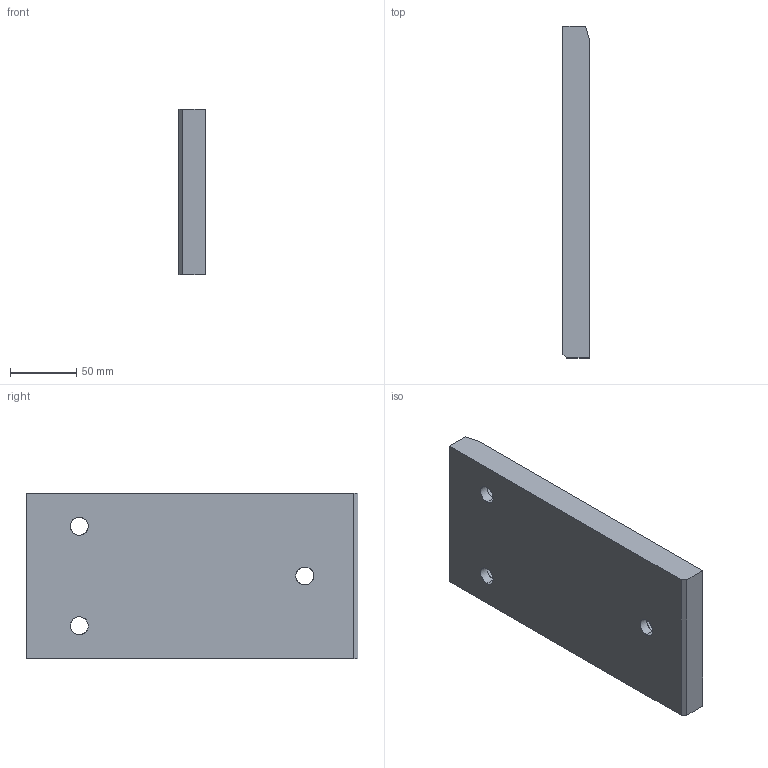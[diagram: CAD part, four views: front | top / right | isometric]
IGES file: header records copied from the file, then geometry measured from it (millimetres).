
Start section: START RECORD GO HERE.
Global section: file name: A915-125X250.igs; native system: DASSAULT SYSTEMES CATIA V5 R20 - www.3ds.com; preprocessor: CATIA Version 5 Release 20 ; author: Utente; organization: NB04-ASUS; date: 20200407.210359; units: millimetre
Bounding box: 20 x 250 x 125 mm (x, y, z)
Surface area: 79204.3 mm2 (no closed solid volume)
Topology: 0 solids, 0 shells, 30 faces, 138 edges, 138 vertices
Faces by surface type: revolution 19, extrusion 11
